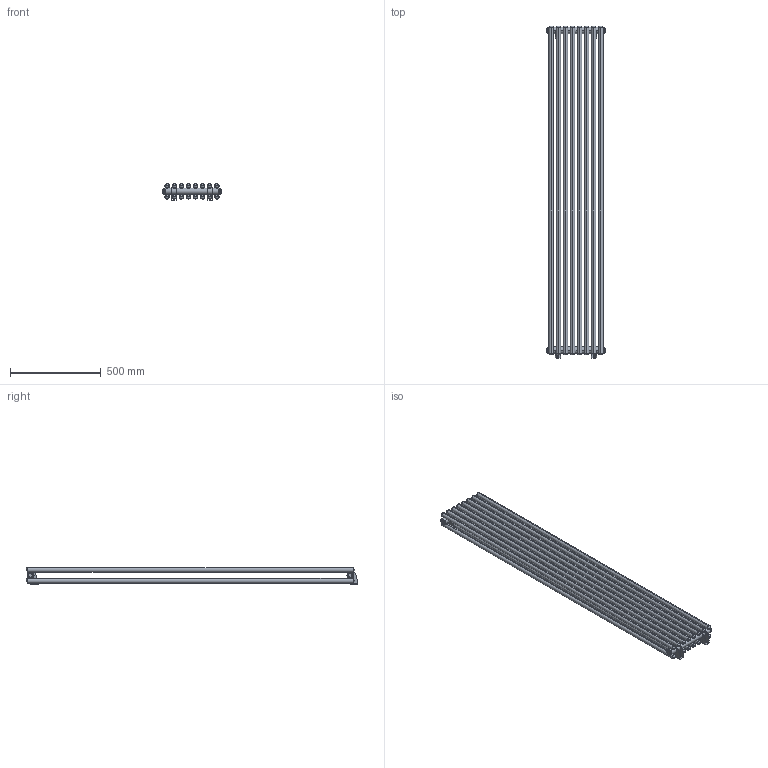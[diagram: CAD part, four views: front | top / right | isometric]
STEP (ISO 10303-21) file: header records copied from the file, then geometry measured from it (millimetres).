
FILE_DESCRIPTION (( 'STEP AP203' ), '1' );
FILE_NAME ('Z10D1810.STEP', '2026-03-06T16:17:21', ( '' ), ( '' ), 'SwSTEP 2.0', 'SolidWorks 2025', '' );
FILE_SCHEMA (( 'CONFIG_CONTROL_DESIGN' ));
Length unit declared in the file: millimetre
Products named in the file (6): Z10D1810; TRAVERSINO TONDO 25 [Con configurazioni]_1810; tappo_sfiato.prt; STAFFA 2025 [Con configurazioni]_ZIGOLO - CANARINO S; COLLETTORE INT 39 [Con configurazioni]_310; tappo_sx.prt
Assembly tree (26 placements, depth 2):
  Z10D1810
    COLLETTORE INT 39 [Con configurazioni]_310  x2
    TRAVERSINO TONDO 25 [Con configurazioni]_1810  x16
    tappo_sfiato.prt
    tappo_sx.prt  x3
    STAFFA 2025 [Con configurazioni]_ZIGOLO - CANARINO S  x4
Bounding box: 322 x 1827 x 92.5 mm (x, y, z)
Volume: 3343269.1 mm3; surface area: 4459807.8 mm2
Topology: 22 solids, 30 shells, 793 faces, 2118 edges, 1323 vertices
Faces by surface type: cylinder 320, plane 200, sphere 128, bspline 99, torus 44, cone 2
Entity records: 18445 total; most frequent: CARTESIAN_POINT 11860, ORIENTED_EDGE 1332, DIRECTION 788, EDGE_CURVE 670, B_SPLINE_CURVE_WITH_KNOTS 443, VERTEX_POINT 417, AXIS2_PLACEMENT_3D 332, EDGE_LOOP 268
